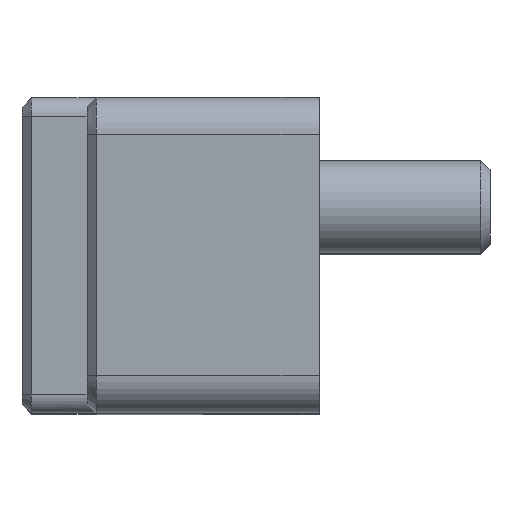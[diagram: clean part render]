
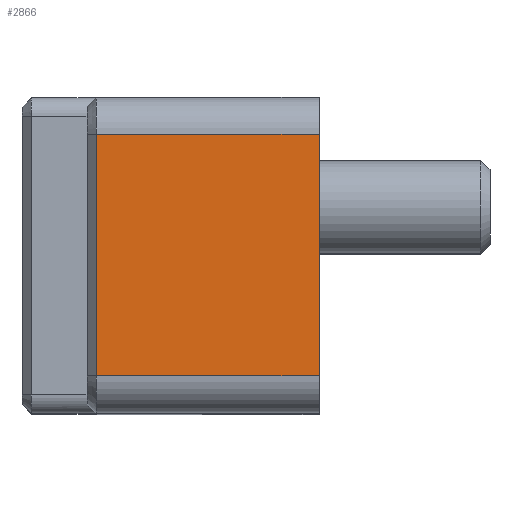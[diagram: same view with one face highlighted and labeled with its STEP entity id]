
A CAD part, top view. The second image highlights one B-rep face of the part: STEP entity #2866.
In plain terms, the highlighted planar face has unit normal (0, 0, 1).
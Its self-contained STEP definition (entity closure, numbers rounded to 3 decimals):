
#292=LINE('',#5019,#498);
#309=LINE('',#5059,#515);
#310=LINE('',#5063,#516);
#311=LINE('',#5064,#517);
#498=VECTOR('',#3439,10.);
#515=VECTOR('',#3470,10.);
#516=VECTOR('',#3475,10.);
#517=VECTOR('',#3476,10.);
#739=FACE_OUTER_BOUND('',#895,.T.);
#895=EDGE_LOOP('',(#2224,#2225,#2226,#2227));
#1234=VERTEX_POINT('',#5012);
#1236=VERTEX_POINT('',#5018);
#1252=VERTEX_POINT('',#5058);
#1253=VERTEX_POINT('',#5062);
#1589=EDGE_CURVE('',#1234,#1236,#292,.T.);
#1609=EDGE_CURVE('',#1236,#1252,#309,.T.);
#1611=EDGE_CURVE('',#1253,#1234,#310,.T.);
#1612=EDGE_CURVE('',#1252,#1253,#311,.T.);
#2224=ORIENTED_EDGE('',*,*,#1589,.F.);
#2225=ORIENTED_EDGE('',*,*,#1611,.F.);
#2226=ORIENTED_EDGE('',*,*,#1612,.F.);
#2227=ORIENTED_EDGE('',*,*,#1609,.F.);
#2590=PLANE('',#3035);
#2866=ADVANCED_FACE('',(#739),#2590,.T.);
#3035=AXIS2_PLACEMENT_3D('',#5061,#3473,#3474);
#3439=DIRECTION('',(0.,1.,0.));
#3470=DIRECTION('',(1.,0.,0.));
#3473=DIRECTION('center_axis',(0.,0.,
1.));
#3474=DIRECTION('ref_axis',(-1.,0.,0.));
#3475=DIRECTION('',(-1.,0.,0.));
#3476=DIRECTION('',(0.,-1.,0.));
#5012=CARTESIAN_POINT('',(-152.282,-18.231,27.5));
#5018=CARTESIAN_POINT('',(-152.282,-5.231,27.5));
#5019=CARTESIAN_POINT('',(-152.282,-3.231,27.5));
#5058=CARTESIAN_POINT('',(-140.282,-5.231,27.5));
#5059=CARTESIAN_POINT('',(-144.259,-5.231,27.5));
#5061=CARTESIAN_POINT('Origin',(-140.282,-3.231,27.5));
#5062=CARTESIAN_POINT('',(-140.282,-18.231,27.5));
#5063=CARTESIAN_POINT('',(-144.259,-18.231,27.5));
#5064=CARTESIAN_POINT('',(-140.282,-3.231,27.5));
